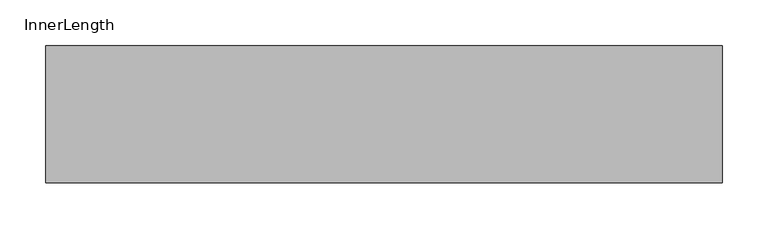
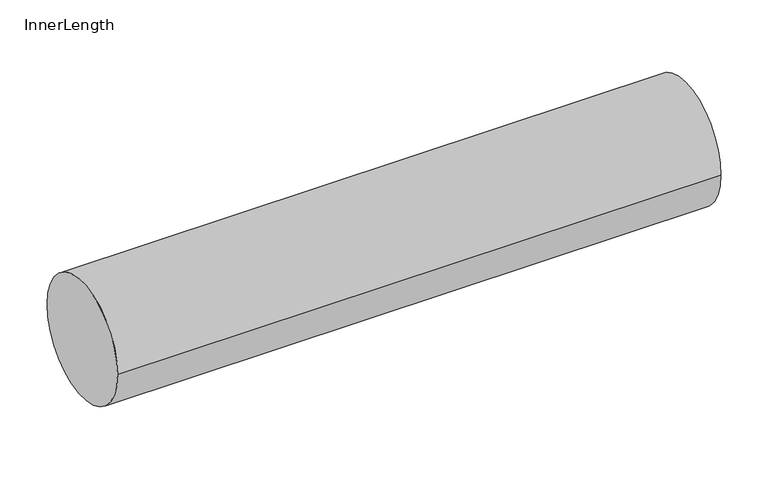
"""IFC4 building model written with IfcOpenShell, lengths in millimetres: pipe fitting geometry, CADS_Jeremias_InnerLength : InnerLength."""

from ifc_helpers import new_model, si_unit, point, frame, origin, origin_2d, place, context, project, spatial, circle_curve, trimmed, segment, composite_curve, outline, extrude, source, transform, mapped, element, save


def innerlength_2c715587(model_context):
    return source(origin(), model_context, "Body", "SweptSolid", [
        extrude(outline(composite_curve([segment(trimmed(circle_curve(origin_2d(), 75.0), [point((-75.0, 0.0))], [point((75.0, 0.0))], False, "CARTESIAN"), True, "CONTINUOUS"), segment(trimmed(circle_curve(origin_2d(), 75.0), [point((75.0, 0.0))], [point((-75.0, 0.0))], False, "CARTESIAN"), True, "CONTINUOUS")], self_intersect=False)), frame((0.0, 0.0, 0.0), z_axis=(1.0, 0.0, 0.0), x_axis=(0.0, 1.0, 0.0)), (0.0, 0.0, 1.0), 740.0),
    ])


if __name__ == "__main__":
    model = new_model("IFC4")
    model_context = context("Model", 3, world=origin())
    ifc_project = project(units=[si_unit("LENGTHUNIT", "METRE", prefix="MILLI")], contexts=[model_context])
    site = spatial("IfcSite", under=ifc_project)
    building = spatial("IfcBuilding", under=site)
    placement = place(None, origin())
    innerlength_shape = innerlength_2c715587(model_context)
    element("IfcPipeFitting", 1, ObjectType="CADS_Jeremias_InnerLength : InnerLength", at=placement, inside=building, context=model_context, shape_type="MappedRepresentation", body=[
        mapped(innerlength_shape, transform((0.0, 0.0, 0.0), x_axis=(1.0, 0.0, 0.0), y_axis=(0.0, 1.0, 0.0), z_axis=(0.0, 0.0, 1.0))),
    ])
    save(model, "model.ifc")
